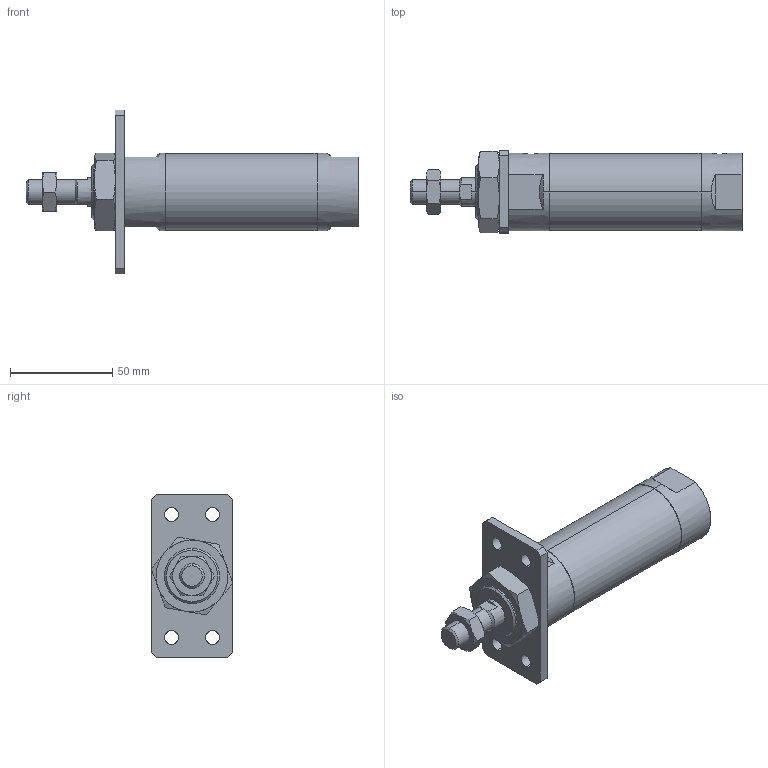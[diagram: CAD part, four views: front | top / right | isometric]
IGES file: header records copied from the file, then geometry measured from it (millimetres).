
Start section: SolidWorks IGES file using analytic representation for surfaces
Global section: file name: C:\Users\Toshiba\Desktop\JGND2-32-25-A.IGS; native system: SolidWorks 2014; preprocessor: SolidWorks 2014; author: Toshiba; date: 160804.104645; units: millimetre
Bounding box: 162 x 40 x 80 mm (x, y, z)
Surface area: 30428.3 mm2 (no closed solid volume)
Topology: 0 solids, 0 shells, 109 faces, 1980 edges, 1976 vertices
Faces by surface type: bspline 66, revolution 43
